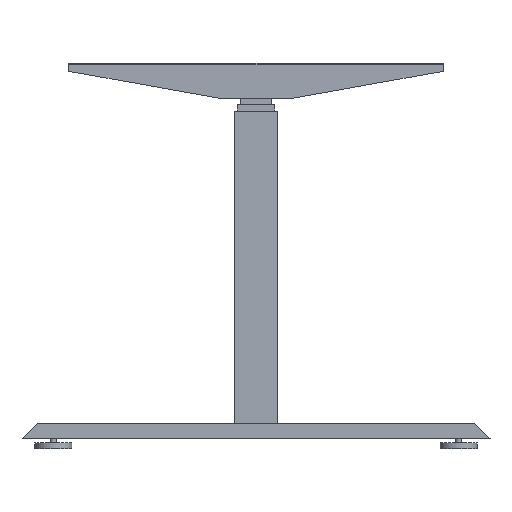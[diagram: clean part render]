
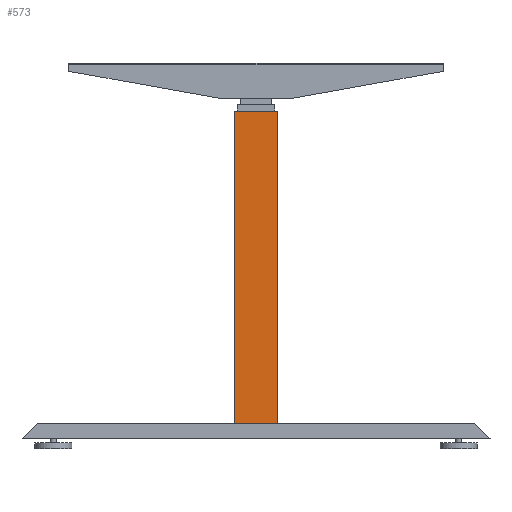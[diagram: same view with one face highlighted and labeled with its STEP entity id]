
A CAD part, left-side view. The second image highlights one B-rep face of the part: STEP entity #573.
In plain terms, the highlighted planar face has unit normal (-1, 0, 0).
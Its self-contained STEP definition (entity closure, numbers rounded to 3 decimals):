
#573 = ADVANCED_FACE( '', ( #1195 ), #1196, .F. );
#1195 = FACE_OUTER_BOUND( '', #1825, .T. );
#1196 = PLANE( '', #1826 );
#1825 = EDGE_LOOP( '', ( #2960, #2961, #2962, #2963 ) );
#1826 = AXIS2_PLACEMENT_3D( '', #2964, #2965, #2966 );
#2960 = ORIENTED_EDGE( '', *, *, #3351, .F. );
#2961 = ORIENTED_EDGE( '', *, *, #3653, .F. );
#2962 = ORIENTED_EDGE( '', *, *, #3654, .F. );
#2963 = ORIENTED_EDGE( '', *, *, #3383, .F. );
#2964 = CARTESIAN_POINT( '', ( -35., 0., 0. ) );
#2965 = DIRECTION( '', ( 1., 0., 0. ) );
#2966 = DIRECTION( '', ( 0., 0., -1. ) );
#3351 = EDGE_CURVE( '', #3912, #3913, #3914, .T. );
#3383 = EDGE_CURVE( '', #3913, #3962, #3963, .T. );
#3653 = EDGE_CURVE( '', #4368, #3912, #4369, .T. );
#3654 = EDGE_CURVE( '', #3962, #4368, #4370, .T. );
#3912 = VERTEX_POINT( '', #4695 );
#3913 = VERTEX_POINT( '', #4696 );
#3914 = LINE( '', #4697, #4698 );
#3962 = VERTEX_POINT( '', #4761 );
#3963 = LINE( '', #4762, #4763 );
#4368 = VERTEX_POINT( '', #5284 );
#4369 = LINE( '', #5285, #5286 );
#4370 = LINE( '', #5287, #5288 );
#4695 = CARTESIAN_POINT( '', ( -35., -35., 500. ) );
#4696 = CARTESIAN_POINT( '', ( -35., -35., 0. ) );
#4697 = CARTESIAN_POINT( '', ( -35., -35., 500. ) );
#4698 = VECTOR( '', #5518, 1000. );
#4761 = CARTESIAN_POINT( '', ( -35., 35., 0. ) );
#4762 = CARTESIAN_POINT( '', ( -35., -35., 0. ) );
#4763 = VECTOR( '', #5555, 1000. );
#5284 = CARTESIAN_POINT( '', ( -35., 35., 500. ) );
#5285 = CARTESIAN_POINT( '', ( -35., 35., 500. ) );
#5286 = VECTOR( '', #5870, 1000. );
#5287 = CARTESIAN_POINT( '', ( -35., 35., 0. ) );
#5288 = VECTOR( '', #5871, 1000. );
#5518 = DIRECTION( '', ( 0., 0., -1. ) );
#5555 = DIRECTION( '', ( 0., 1., 0. ) );
#5870 = DIRECTION( '', ( 0., -1., 0. ) );
#5871 = DIRECTION( '', ( 0., 0., 1. ) );
